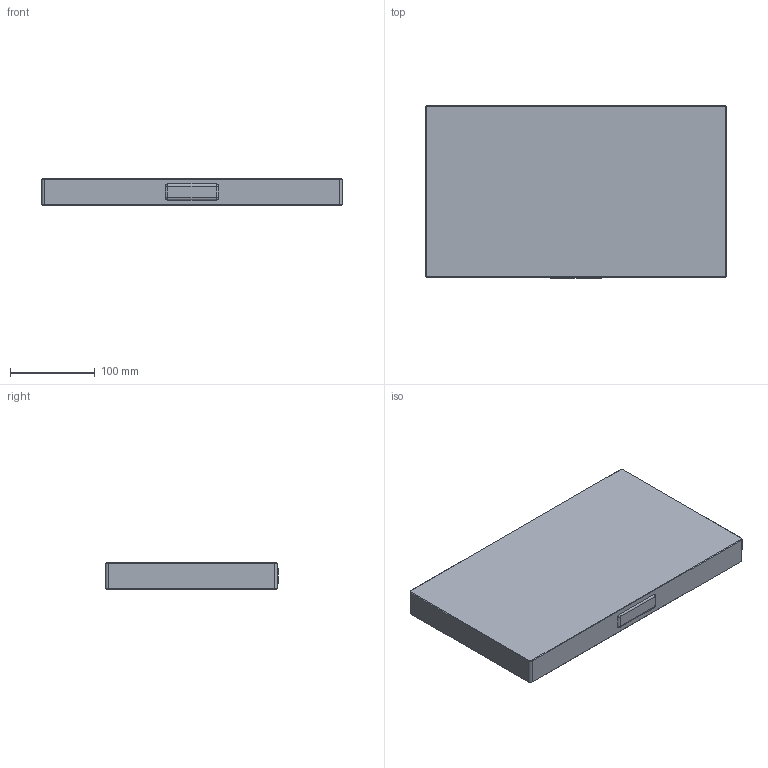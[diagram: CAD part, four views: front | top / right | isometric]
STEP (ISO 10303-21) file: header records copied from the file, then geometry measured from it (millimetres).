
FILE_DESCRIPTION(/* description */ (''),/* implementation_level */ '2;1');
FILE_NAME(/* name */ 'C:/Users/XPS Desktop/Dropbox/Engineering/Pierson Industries/SCPS/Distributable/Pierson_Workholding_MPS_814_Pallet.stp',/* time_stamp */ '2017-06-21T11:34:59-07:00',/* author */ (''),/* organization */ (''),/* preprocessor_version */ 'ST-DEVELOPER v16.13',/* originating_system */ 'Autodesk Translation Framework v6.1.1.50',/* authorisation */ '');
FILE_SCHEMA (('AUTOMOTIVE_DESIGN { 1 0 10303 214 3 1 1 }'));
Length unit declared in the file: inch
Products named in the file (1): FusionComponent
Bounding box: 355.6 x 204.47 x 31.75 mm (x, y, z)
Volume: 2263578.1 mm3; surface area: 182916.3 mm2
Topology: 1 solids, 1 shells, 54 faces, 118 edges, 73 vertices
Faces by surface type: plane 25, cylinder 16, cone 9, bspline 4
Full cylindrical faces by diameter (mm): 22.258 x2, 30.48 x1, 47.981 x1
Entity records: 1490 total; most frequent: CARTESIAN_POINT 273, DIRECTION 264, ORIENTED_EDGE 226, EDGE_CURVE 113, AXIS2_PLACEMENT_3D 100, VERTEX_POINT 73, EDGE_LOOP 66, LINE 64
